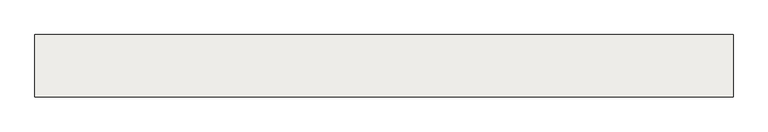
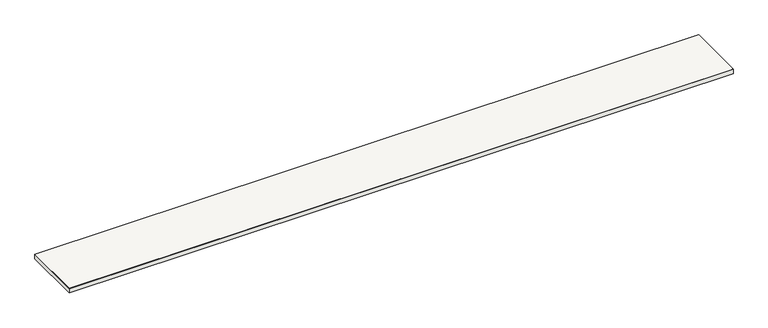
"""IFC4 building model written with IfcOpenShell, lengths in millimetres: slab geometry, Sol-02 - dalle béton 20cm + finition 1cm."""

from ifc_helpers import new_model, si_unit, frame, origin, origin_with_axes, place, context, project, spatial, polyline, outline, extrude, source, transform, mapped, element, save


def slab_eee53382(model_context):
    return source(origin(), model_context, "Body", "SweptSolid", [
        extrude(outline(polyline([(29014.9999745, 11001.5656741), (-2.62e-05, 11001.5656741), (-2.62e-05, 13601.0806633), (29014.9999745, 13601.0806633), (29014.9999745, 11001.5656741)])), frame((0.0, 0.0, 200.0), z_axis=(0.0, 0.0, 1.0), x_axis=(1.0, 0.0, 0.0)), (0.0, 0.0, 1.0), 10.0),
        extrude(outline(polyline([(-2.62e-05, 11001.5656741), (-2.62e-05, 13601.0806633), (29014.9999745, 13601.0806633), (29014.9999745, 11001.5656741), (-2.62e-05, 11001.5656741)])), origin_with_axes(), (0.0, 0.0, 1.0), 200.0),
    ])


if __name__ == "__main__":
    model = new_model("IFC4")
    model_context = context("Model", 3, world=origin())
    ifc_project = project(units=[si_unit("LENGTHUNIT", "METRE", prefix="MILLI")], contexts=[model_context])
    site = spatial("IfcSite", under=ifc_project)
    building = spatial("IfcBuilding", under=site)
    placement = place(None, origin())
    slab_shape = slab_eee53382(model_context)
    element("IfcSlab", 1, ObjectType="Sol-02 - dalle béton 20cm + finition 1cm", at=placement, inside=building, context=model_context, shape_type="MappedRepresentation", body=[
        mapped(slab_shape, transform((0.0, 0.0, 0.0), x_axis=(1.0, 0.0, 0.0), y_axis=(0.0, 1.0, 0.0), z_axis=(0.0, 0.0, 1.0))),
    ])
    save(model, "model.ifc")
